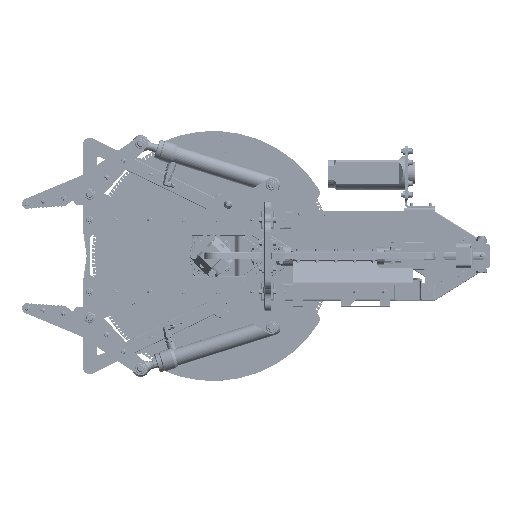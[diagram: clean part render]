
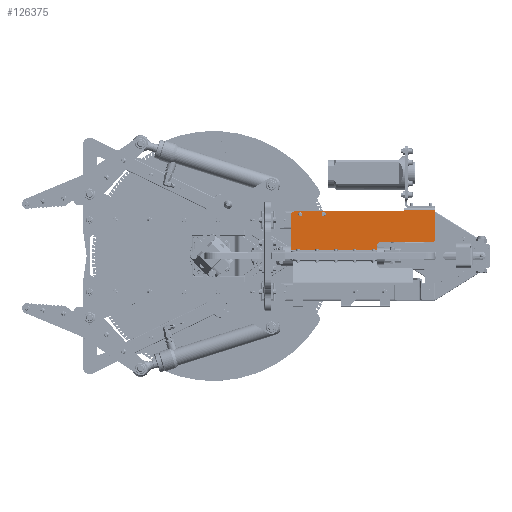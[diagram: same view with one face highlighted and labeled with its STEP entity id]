
A CAD part, top view. The second image highlights one B-rep face of the part: STEP entity #126375.
In plain terms, the highlighted planar face has unit normal (0, 0, 1).
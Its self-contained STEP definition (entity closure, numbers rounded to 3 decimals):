
#4510=FACE_BOUND('',#23267,.T.);
#4511=FACE_BOUND('',#23268,.T.);
#9408=CIRCLE('',#135616,10.);
#9410=CIRCLE('',#135620,10.);
#9416=CIRCLE('',#135633,10.);
#9437=CIRCLE('',#135671,6.);
#9438=CIRCLE('',#135672,6.);
#16011=FACE_OUTER_BOUND('',#23266,.T.);
#23266=EDGE_LOOP('',(#89394,#89395,#89396,#89397,#89398,#89399,#89400,#89401,
#89402,#89403,#89404));
#23267=EDGE_LOOP('',(#89405));
#23268=EDGE_LOOP('',(#89406));
#32073=LINE('',#197157,#40955);
#32077=LINE('',#197166,#40959);
#32081=LINE('',#197175,#40963);
#32085=LINE('',#197185,#40967);
#32101=LINE('',#197226,#40983);
#32105=LINE('',#197236,#40987);
#32111=LINE('',#197254,#40993);
#32115=LINE('',#197261,#40997);
#40955=VECTOR('',#157318,10.);
#40959=VECTOR('',#157324,10.);
#40963=VECTOR('',#157330,10.);
#40967=VECTOR('',#157338,10.);
#40983=VECTOR('',#157378,10.);
#40987=VECTOR('',#157390,10.);
#40993=VECTOR('',#157412,10.);
#40997=VECTOR('',#157418,10.);
#50418=VERTEX_POINT('',#197154);
#50419=VERTEX_POINT('',#197156);
#50421=VERTEX_POINT('',#197162);
#50423=VERTEX_POINT('',#197165);
#50425=VERTEX_POINT('',#197171);
#50427=VERTEX_POINT('',#197174);
#50431=VERTEX_POINT('',#197184);
#50442=VERTEX_POINT('',#197219);
#50443=VERTEX_POINT('',#197223);
#50445=VERTEX_POINT('',#197232);
#50452=VERTEX_POINT('',#197258);
#50484=VERTEX_POINT('',#197364);
#50485=VERTEX_POINT('',#197366);
#64459=EDGE_CURVE('',#50418,#50419,#32073,.T.);
#64463=EDGE_CURVE('',#50421,#50423,#32077,.T.);
#64467=EDGE_CURVE('',#50425,#50427,#32081,.T.);
#64472=EDGE_CURVE('',#50431,#50427,#32085,.T.);
#64491=EDGE_CURVE('',#50442,#50425,#9408,.T.);
#64493=EDGE_CURVE('',#50442,#50443,#32101,.T.);
#64496=EDGE_CURVE('',#50419,#50443,#9410,.T.);
#64499=EDGE_CURVE('',#50423,#50445,#32105,.T.);
#64509=EDGE_CURVE('',#50418,#50445,#32111,.T.);
#64513=EDGE_CURVE('',#50431,#50452,#32115,.T.);
#64515=EDGE_CURVE('',#50452,#50421,#9416,.T.);
#64567=EDGE_CURVE('',#50484,#50484,#9437,.T.);
#64568=EDGE_CURVE('',#50485,#50485,#9438,.T.);
#89394=ORIENTED_EDGE('',*,*,#64515,.F.);
#89395=ORIENTED_EDGE('',*,*,#64513,.F.);
#89396=ORIENTED_EDGE('',*,*,#64472,.T.);
#89397=ORIENTED_EDGE('',*,*,#64467,.F.);
#89398=ORIENTED_EDGE('',*,*,#64491,.F.);
#89399=ORIENTED_EDGE('',*,*,#64493,.T.);
#89400=ORIENTED_EDGE('',*,*,#64496,.F.);
#89401=ORIENTED_EDGE('',*,*,#64459,.F.);
#89402=ORIENTED_EDGE('',*,*,#64509,.T.);
#89403=ORIENTED_EDGE('',*,*,#64499,.F.);
#89404=ORIENTED_EDGE('',*,*,#64463,.F.);
#89405=ORIENTED_EDGE('',*,*,#64567,.T.);
#89406=ORIENTED_EDGE('',*,*,#64568,.T.);
#114518=PLANE('',#135670);
#126375=ADVANCED_FACE('',(#16011,#4510,#4511),#114518,.F.);
#135616=AXIS2_PLACEMENT_3D('',#197221,#157373,#157374);
#135620=AXIS2_PLACEMENT_3D('',#197230,#157384,#157385);
#135633=AXIS2_PLACEMENT_3D('',#197264,#157423,#157424);
#135670=AXIS2_PLACEMENT_3D('',#197363,#157528,#157529);
#135671=AXIS2_PLACEMENT_3D('',#197365,#157530,#157531);
#135672=AXIS2_PLACEMENT_3D('',#197367,#157532,#157533);
#157318=DIRECTION('',(0.,-1.,0.));
#157324=DIRECTION('',(1.,0.,0.));
#157330=DIRECTION('',(0.,-1.,0.));
#157338=DIRECTION('',(1.,0.,0.));
#157373=DIRECTION('center_axis',(0.,0.,
1.));
#157374=DIRECTION('ref_axis',(-0.707,0.707,0.));
#157378=DIRECTION('',(1.,0.,0.));
#157384=DIRECTION('center_axis',(0.,0.,
-1.));
#157385=DIRECTION('ref_axis',(0.707,-0.707,0.));
#157390=DIRECTION('',(0.,1.,0.));
#157412=DIRECTION('',(-1.,0.,0.));
#157418=DIRECTION('',(0.,1.,0.));
#157423=DIRECTION('center_axis',(0.,0.,
-1.));
#157424=DIRECTION('ref_axis',(-0.707,0.707,0.));
#157528=DIRECTION('center_axis',(0.,0.,
-1.));
#157529=DIRECTION('ref_axis',(1.,0.,0.));
#157530=DIRECTION('center_axis',(0.,0.,
-1.));
#157531=DIRECTION('ref_axis',(0.,1.,0.));
#157532=DIRECTION('center_axis',(0.,0.,
-1.));
#157533=DIRECTION('ref_axis',(0.,1.,0.));
#197154=CARTESIAN_POINT('',(514.001,134.,153.675));
#197156=CARTESIAN_POINT('',(514.001,50.,153.675));
#197157=CARTESIAN_POINT('',(514.001,140.,153.675));
#197162=CARTESIAN_POINT('',(104.001,130.,153.648));
#197165=CARTESIAN_POINT('',(424.001,130.,153.669));
#197166=CARTESIAN_POINT('',(94.001,130.,153.647));
#197171=CARTESIAN_POINT('',(344.001,30.,153.664));
#197174=CARTESIAN_POINT('',(344.001,16.,153.664));
#197175=CARTESIAN_POINT('',(344.001,130.,153.664));
#197184=CARTESIAN_POINT('',(94.001,16.,153.647));
#197185=CARTESIAN_POINT('',(406.501,16.,153.668));
#197219=CARTESIAN_POINT('',(354.001,40.,153.665));
#197221=CARTESIAN_POINT('Origin',(354.001,30.,153.665));
#197223=CARTESIAN_POINT('',(504.001,40.,153.675));
#197226=CARTESIAN_POINT('',(344.001,40.,153.664));
#197230=CARTESIAN_POINT('Origin',(504.001,50.,153.675));
#197232=CARTESIAN_POINT('',(424.001,134.,153.669));
#197236=CARTESIAN_POINT('',(424.001,130.,153.669));
#197254=CARTESIAN_POINT('',(491.501,134.,153.674));
#197258=CARTESIAN_POINT('',(94.001,120.,153.647));
#197261=CARTESIAN_POINT('',(94.001,10.,153.647));
#197264=CARTESIAN_POINT('Origin',(104.001,120.,153.648));
#197363=CARTESIAN_POINT('Origin',(469.001,135.,153.672));
#197364=CARTESIAN_POINT('',(119.875,116.,153.649));
#197365=CARTESIAN_POINT('Origin',(119.875,122.,153.649));
#197366=CARTESIAN_POINT('',(188.875,116.,153.654));
#197367=CARTESIAN_POINT('Origin',(188.875,122.,153.654));
